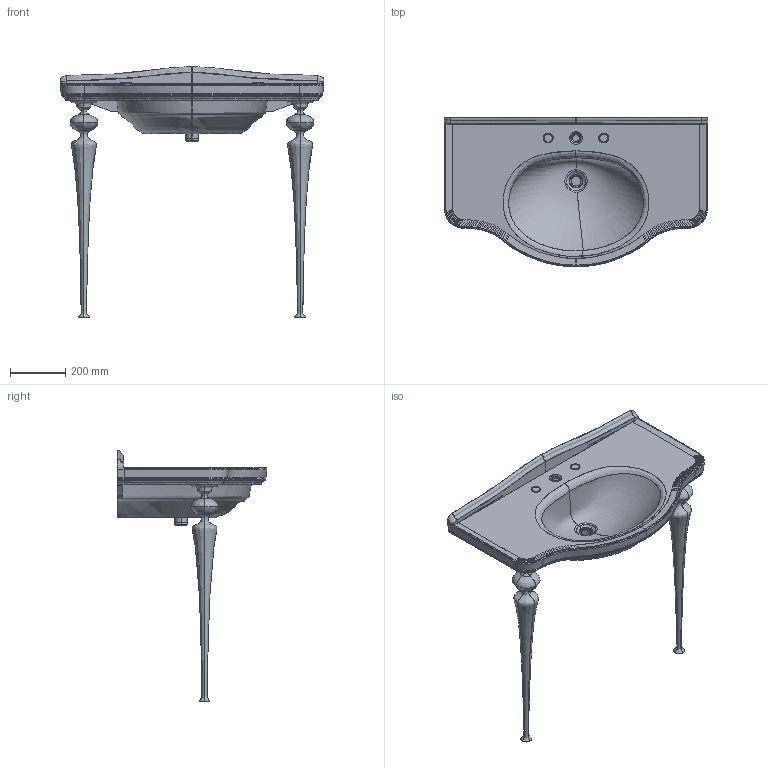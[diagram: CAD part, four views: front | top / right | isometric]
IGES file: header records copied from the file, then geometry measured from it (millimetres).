
Start section: START RECORD GO HERE.
Global section: file name: 8451-8452.igs; native system: IBM CATIA IGES - CATIA Version 5 Release 17 ; preprocessor: CATIA Version 5 Release 17 ; author: Luca; organization: PC-Luca; date: 20121116.193130; units: millimetre
Bounding box: 950.33 x 539.38 x 903.02 mm (x, y, z)
Surface area: 1613287.2 mm2 (no closed solid volume)
Topology: 0 solids, 0 shells, 1092 faces, 5760 edges, 5758 vertices
Faces by surface type: bspline 1092
